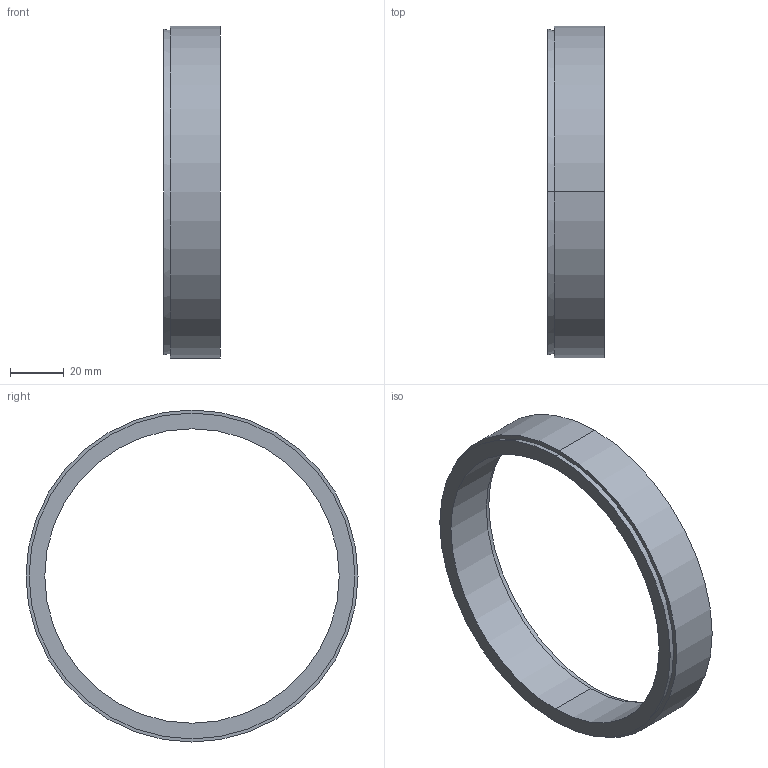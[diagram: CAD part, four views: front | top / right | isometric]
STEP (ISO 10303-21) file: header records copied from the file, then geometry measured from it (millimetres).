
FILE_DESCRIPTION (( 'STEP AP203' ), '1' );
FILE_NAME ('SC-110.STEP', '2009-09-29T16:03:55', ( 'USER' ), ( 'HOME' ), 'SwSTEP 2.0', 'SolidWorks 2007', '' );
FILE_SCHEMA (( 'CONFIG_CONTROL_DESIGN' ));
Length unit declared in the file: millimetre
Products named in the file (1): SC-110
Bounding box: 21 x 124 x 124 mm (x, y, z)
Volume: 51759.6 mm3; surface area: 33373.5 mm2
Topology: 2 solids, 2 shells, 12 faces, 24 edges, 16 vertices
Faces by surface type: cylinder 4, cone 4, plane 4
Entity records: 407 total; most frequent: DIRECTION 66, CARTESIAN_POINT 53, ORIENTED_EDGE 48, AXIS2_PLACEMENT_3D 29, EDGE_CURVE 24, EDGE_LOOP 16, VERTEX_POINT 16, CIRCLE 16
